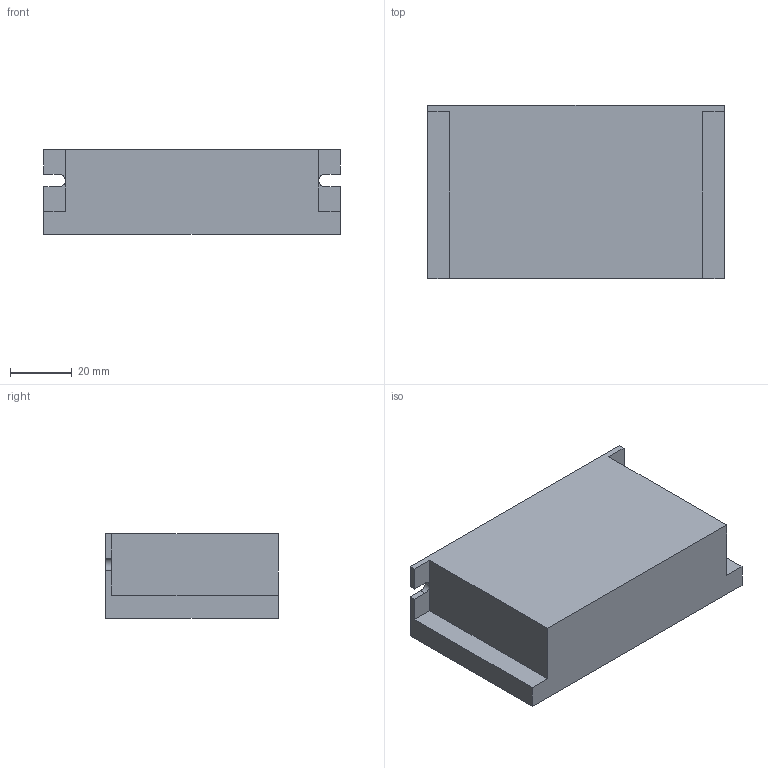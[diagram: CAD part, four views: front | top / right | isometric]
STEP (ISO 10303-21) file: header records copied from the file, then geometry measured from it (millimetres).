
FILE_DESCRIPTION(/* description */ ('STEP AP242 Edition 2','CAx-IF Rec.Pracs.---Representation and Presentation of Product Manufacturing Information (PMI)---4.0---2014-10-13','CAx-IF Rec.Pracs.---3D Tessellated Geometry---0.4---2014-09-14','2;1','CAx-IF Rec.Pracs.---User Defined Attributes---1.5---2016-08-15'),/* implementation_level */ '2;1');
FILE_NAME(/* name */ 'Spindle Driver',/* time_stamp */ '2025-11-29T19:49:21Z',/* author */ (''),/* organization */ (''),/* preprocessor_version */ 'ST-DEVELOPER v20',/* originating_system */ 'ONSHAPE BY PTC INC, 1.207',/* authorisation */ ' ');
FILE_SCHEMA (('AP242_MANAGED_MODEL_BASED_3D_ENGINEERING_MIM_LF { 1 0 10303 442 3 1 4 }'));
Length unit declared in the file: metre
Products named in the file (1): Part 1
Bounding box: 96 x 56 x 27.5 mm (x, y, z)
Volume: 132615.5 mm3; surface area: 19056.4 mm2
Topology: 1 solids, 1 shells, 20 faces, 54 edges, 36 vertices
Faces by surface type: plane 18, cylinder 2
Entity records: 644 total; most frequent: CARTESIAN_POINT 111, ORIENTED_EDGE 108, DIRECTION 100, EDGE_CURVE 54, LINE 50, VECTOR 50, VERTEX_POINT 36, AXIS2_PLACEMENT_3D 25
